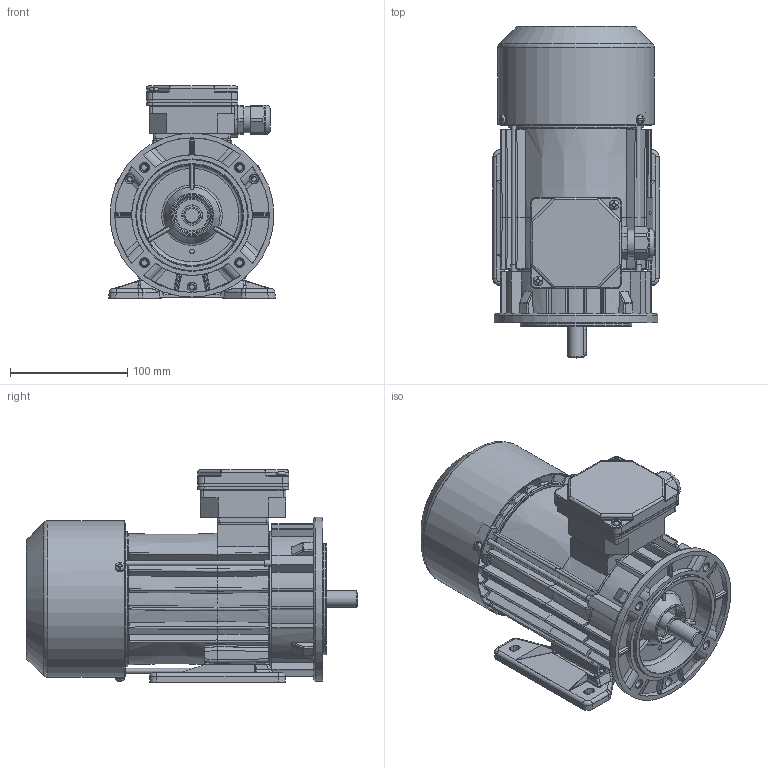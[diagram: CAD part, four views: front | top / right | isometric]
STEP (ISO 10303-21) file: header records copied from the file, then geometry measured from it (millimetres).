
FILE_DESCRIPTION(/* description */ ('Unknown'),/* implementation_level */ '2;1');
FILE_NAME(/* name */ '3SIEL71-8B1',/* time_stamp */ '2021-02-03T14:57:16+01:00',/* author */ ('Unknown'),/* organization */ ('Unknown'),/* preprocessor_version */ 'ST-DEVELOPER v16.7',/* originating_system */ 'Solid Edge',/* authorisation */ 'Unknown');
FILE_SCHEMA (('AUTOMOTIVE_DESIGN {1 0 10303 214 3 1 1}'));
Products named in the file (1): 3SIEL71-8B1
Bounding box: 141.93 x 283.48 x 181.5 mm (x, y, z)
Volume: 829550.7 mm3; surface area: 472428.1 mm2
Topology: 2 solids, 2 shells, 2781 faces, 7583 edges, 4814 vertices
Faces by surface type: plane 1153, cylinder 774, bspline 423, torus 209, cone 188, sphere 34
Full cylindrical faces by diameter (mm): 2 x2, 2.4 x2, 3.7 x4, 3.8 x4, 4 x3, 4.134 x3, 4.4 x3, 4.8 x2, 5 x5, 5.1 x3, 5.5 x3, 5.8 x4, 6.8 x4, 7 x1, 8 x6, 13.599 x1, 13.999 x1, 15.898 x1, 16.098 x1, 16.498 x1, 16.998 x2, 17.4 x2, 21.998 x2, 22.3 x1, 22.498 x1, 22.648 x1, 22.998 x1, 23.048 x1, 24.496 x4, 25 x1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
Entity records: 115627 total; most frequent: CARTESIAN_POINT 30492, ORIENTED_EDGE 14392, DIRECTION 12669, EDGE_CURVE 7196, AXIS2_PLACEMENT_3D 4794, VERTEX_POINT 4682, EDGE_LOOP 3230, FACE_BOUND 3230
